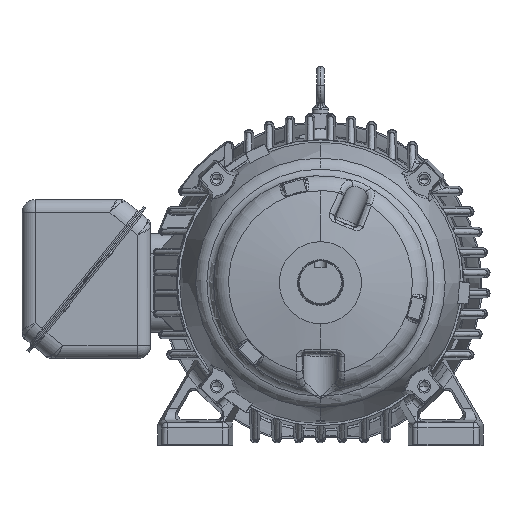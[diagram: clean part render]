
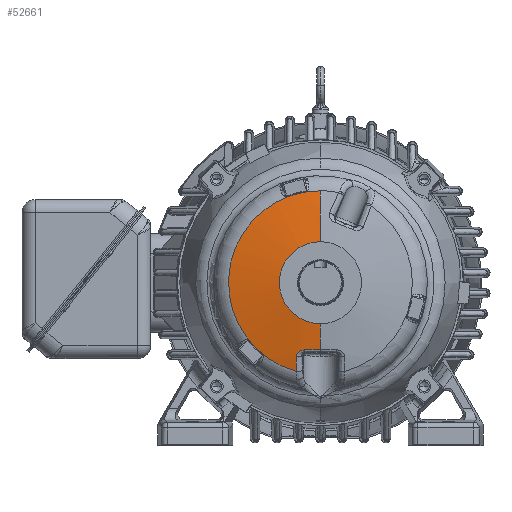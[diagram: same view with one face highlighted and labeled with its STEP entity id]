
A CAD part, top view. The second image highlights one B-rep face of the part: STEP entity #52661.
In plain terms, the highlighted spherical face has radius 431.8 mm.
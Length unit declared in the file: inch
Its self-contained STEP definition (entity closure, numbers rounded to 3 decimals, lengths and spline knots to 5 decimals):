
#41563=CARTESIAN_POINT('',(0.,0.,-3.687));
#41564=DIRECTION('',(0.,0.,-1.));
#41565=DIRECTION('',(0.,1.,0.));
#41566=AXIS2_PLACEMENT_3D('',#41563,#41564,#41565);
#42620=CARTESIAN_POINT('',(0.,0.,12.84661));
#42621=DIRECTION('',(1.,0.,0.));
#42622=DIRECTION('',(0.,0.104,-0.995));
#42623=AXIS2_PLACEMENT_3D('',#42620,#42621,#42622);
#42625=CARTESIAN_POINT('',(0.,0.,12.84661));
#42626=DIRECTION('',(-1.,0.,0.));
#42627=DIRECTION('',(0.,-0.104,-0.995));
#42628=AXIS2_PLACEMENT_3D('',#42625,#42626,#42627);
#42635=CARTESIAN_POINT('',(0.,0.,-4.06147));
#42636=DIRECTION('',(0.,0.,1.));
#42637=DIRECTION('',(0.,-1.,0.));
#42638=AXIS2_PLACEMENT_3D('',#42635,#42636,#42637);
#48836=CARTESIAN_POINT('',(0.68211,-2.89497,
-3.89119));
#48837=CARTESIAN_POINT('',(0.59556,-2.89497,
-3.89472));
#48838=CARTESIAN_POINT('',(0.43079,-2.89496,
-3.9001));
#48839=CARTESIAN_POINT('',(0.20447,-2.89496,
-3.9043));
#48840=CARTESIAN_POINT('',(0.06637,-2.89496,
-3.90508));
#48841=CARTESIAN_POINT('',(0.,-2.89496,
-3.90508));
#48843=CARTESIAN_POINT('',(0.68211,-2.89497,
-3.89119));
#48844=CARTESIAN_POINT('',(0.68729,-2.89497,
-3.89098));
#48845=CARTESIAN_POINT('',(0.69793,-2.89503,
-3.89053));
#48846=CARTESIAN_POINT('',(0.71464,-2.89547,
-3.88975));
#48847=CARTESIAN_POINT('',(0.7324,-2.89644,
-3.88881));
#48848=CARTESIAN_POINT('',(0.75127,-2.8982,
-3.88767));
#48849=CARTESIAN_POINT('',(0.77133,-2.90101,
-3.88627));
#48850=CARTESIAN_POINT('',(0.79251,-2.90514,
-3.88457));
#48851=CARTESIAN_POINT('',(0.81472,-2.91089,
-3.8825));
#48852=CARTESIAN_POINT('',(0.83769,-2.9185,
-3.88004));
#48853=CARTESIAN_POINT('',(0.86096,-2.92809,
-3.87719));
#48854=CARTESIAN_POINT('',(0.88408,-2.93969,
-3.87394));
#48855=CARTESIAN_POINT('',(0.90644,-2.95313,
-3.87038));
#48856=CARTESIAN_POINT('',(0.92771,-2.9682,
-3.86654));
#48857=CARTESIAN_POINT('',(0.94779,-2.98487,
-3.86245));
#48858=CARTESIAN_POINT('',(0.9665,-3.00301,
-3.85812));
#48859=CARTESIAN_POINT('',(0.98361,-3.0224,
-3.85363));
#48860=CARTESIAN_POINT('',(0.99885,-3.04275,
-3.84903));
#48861=CARTESIAN_POINT('',(1.01203,-3.0637,
-3.8444));
#48862=CARTESIAN_POINT('',(1.02298,-3.08492,
-3.83982));
#48863=CARTESIAN_POINT('',(1.03154,-3.10584,
-3.83541));
#48864=CARTESIAN_POINT('',(1.03779,-3.12616,
-3.83123));
#48865=CARTESIAN_POINT('',(1.0419,-3.14579,
-3.82728));
#48866=CARTESIAN_POINT('',(1.04402,-3.16473,
-3.82356));
#48867=CARTESIAN_POINT('',(1.0442,-3.17695,
-3.82123));
#48868=CARTESIAN_POINT('',(1.044,-3.18295,
-3.82009));
#49055=CARTESIAN_POINT('',(1.02054,-3.82077,
-3.687));
#49069=CARTESIAN_POINT('',(1.02054,-3.82077,
-3.687));
#49070=CARTESIAN_POINT('',(1.02366,-3.74329,
-3.70471));
#49071=CARTESIAN_POINT('',(1.02953,-3.5927,
-3.738));
#49072=CARTESIAN_POINT('',(1.03729,-3.3804,
-3.78203));
#49073=CARTESIAN_POINT('',(1.04186,-3.24731,
-3.80793));
#49074=CARTESIAN_POINT('',(1.044,-3.18295,
-3.82009));
#49334=CARTESIAN_POINT('',(0.,1.7655,-4.06147));
#49335=VERTEX_POINT('',#49334);
#49336=CARTESIAN_POINT('',(0.,-1.7655,-4.06147));
#49337=VERTEX_POINT('',#49336);
#49803=CARTESIAN_POINT('',(0.,3.95471,-3.687));
#49804=VERTEX_POINT('',#49803);
#49855=VERTEX_POINT('',#49055);
#49857=VERTEX_POINT('',#49074);
#49859=VERTEX_POINT('',#48836);
#49860=VERTEX_POINT('',#48841);
#52643=CARTESIAN_POINT('',(0.,0.,12.84661));
#52644=DIRECTION('',(0.,0.,-1.));
#52645=DIRECTION('',(0.,-1.,0.));
#52646=AXIS2_PLACEMENT_3D('',#52643,#52644,#52645);
#52647=SPHERICAL_SURFACE('',#52646,17.);
#52648=ORIENTED_EDGE('',*,*,#52617,.F.);
#52650=ORIENTED_EDGE('',*,*,#52649,.F.);
#52651=ORIENTED_EDGE('',*,*,#52636,.T.);
#52653=ORIENTED_EDGE('',*,*,#52652,.F.);
#52655=ORIENTED_EDGE('',*,*,#52654,.T.);
#52657=ORIENTED_EDGE('',*,*,#52656,.F.);
#52658=ORIENTED_EDGE('',*,*,#50479,.F.);
#52659=EDGE_LOOP('',(#52648,#52650,#52651,#52653,#52655,#52657,#52658));
#52660=FACE_OUTER_BOUND('',#52659,.F.);
#52661=ADVANCED_FACE('',(#52660),#52647,.T.);
#41567=CIRCLE('',#41566,3.95471);
#42624=CIRCLE('',#42623,17.);
#42629=CIRCLE('',#42628,17.);
#42639=CIRCLE('',#42638,1.7655);
#48842=B_SPLINE_CURVE_WITH_KNOTS('',3,(#48836,#48837,#48838,#48839,#48840,
#48841),.UNSPECIFIED.,.F.,.F.,(4,1,1,4),(0.,0.33333,
0.66667,1.),.UNSPECIFIED.);
#48869=B_SPLINE_CURVE_WITH_KNOTS('',3,(#48843,#48844,#48845,#48846,#48847,
#48848,#48849,#48850,#48851,#48852,#48853,#48854,#48855,#48856,#48857,#48858,
#48859,#48860,#48861,#48862,#48863,#48864,#48865,#48866,#48867,#48868),
.UNSPECIFIED.,.F.,.F.,(4,1,1,1,1,1,1,1,1,1,1,1,1,1,1,1,1,1,1,1,1,1,1,4),(0.,
0.04348,0.08696,0.13043,0.17391,
0.21739,0.26087,0.30435,0.34783,
0.3913,0.43478,0.47826,0.52174,
0.56522,0.6087,0.65217,0.69565,
0.73913,0.78261,0.82609,0.86957,
0.91304,0.95652,1.),.UNSPECIFIED.);
#49075=B_SPLINE_CURVE_WITH_KNOTS('',3,(#49069,#49070,#49071,#49072,#49073,
#49074),.UNSPECIFIED.,.F.,.F.,(4,1,1,4),(0.,0.33333,
0.66667,1.),.UNSPECIFIED.);
#50479=EDGE_CURVE('',#49804,#49855,#41567,.T.);
#52617=EDGE_CURVE('',#49335,#49804,#42624,.T.);
#52636=EDGE_CURVE('',#49337,#49860,#42629,.T.);
#52649=EDGE_CURVE('',#49337,#49335,#42639,.T.);
#52652=EDGE_CURVE('',#49859,#49860,#48842,.T.);
#52654=EDGE_CURVE('',#49859,#49857,#48869,.T.);
#52656=EDGE_CURVE('',#49855,#49857,#49075,.T.);
